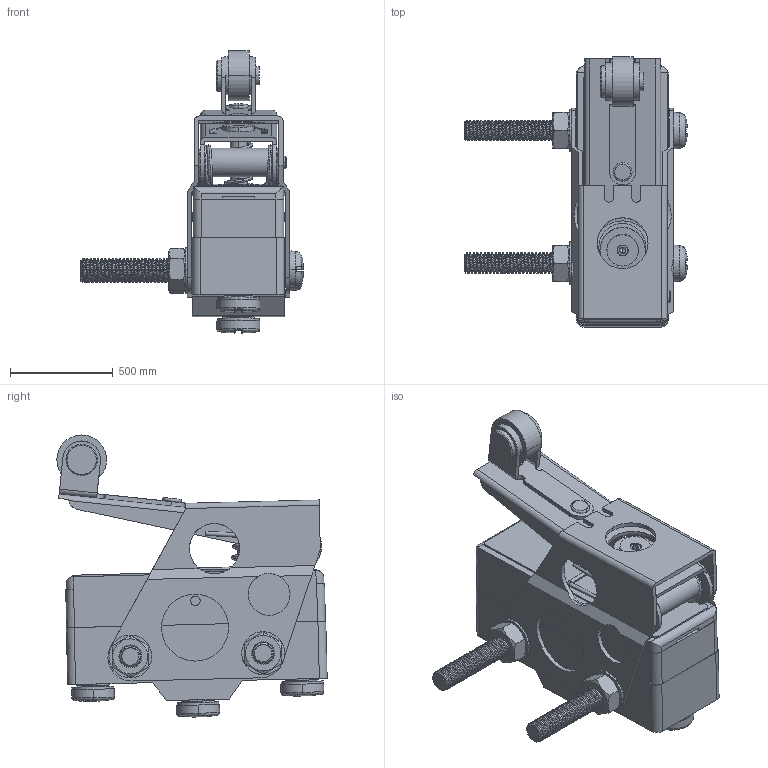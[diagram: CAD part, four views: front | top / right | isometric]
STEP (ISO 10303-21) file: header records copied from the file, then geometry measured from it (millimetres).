
FILE_DESCRIPTION((''),'2;1');
FILE_NAME('ASM0004_ASM','2016-08-16T',('ABS'),(''),'PRO/ENGINEER BY PARAMETRIC TECHNOLOGY CORPORATION, 2012360','PRO/ENGINEER BY PARAMETRIC TECHNOLOGY CORPORATION, 2012360','');
FILE_SCHEMA(('CONFIG_CONTROL_DESIGN'));
Products named in the file (1): ASM0004_ASM
Bounding box: 1081.32 x 1312.43 x 1369.41 mm (x, y, z)
Volume: 347907822.6 mm3; surface area: 11668651.1 mm2
Topology: 1 solids, 13 shells, 1363 faces, 3957 edges, 2602 vertices
Faces by surface type: cylinder 739, plane 388, bspline 125, torus 48, cone 42, sphere 21
Entity records: 73277 total; most frequent: CARTESIAN_POINT 38611, ORIENTED_EDGE 7872, DIRECTION 6539, EDGE_CURVE 3938, VERTEX_POINT 2602, AXIS2_PLACEMENT_3D 2440, VECTOR 1659, LINE 1659
